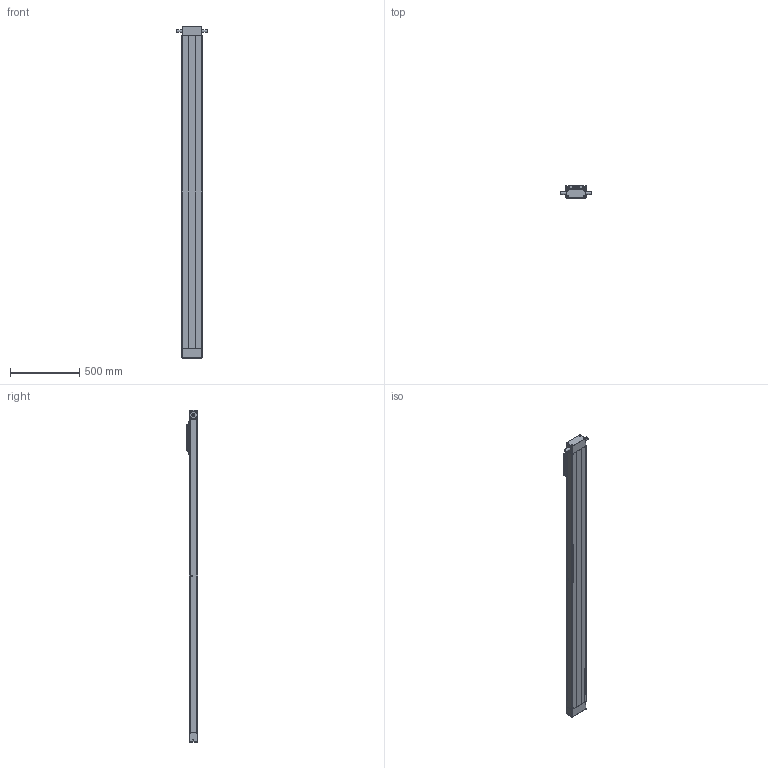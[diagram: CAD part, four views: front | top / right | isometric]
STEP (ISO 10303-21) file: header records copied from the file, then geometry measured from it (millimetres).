
FILE_DESCRIPTION(/* description */ ('STEP AP214'),/* implementation_level */ '2;1');
FILE_NAME(/* name */ 'CTJ 145 2000 L 2 1(0)',/* time_stamp */ '2026-08-19T12:23:34+02:00',/* author */ ('License CC BY-ND 4.0'),/* organization */ ('CADENAS'),/* preprocessor_version */ 'ST-DEVELOPER v20',/* originating_system */ 'PARTsolutions',/* authorisation */ ' ');
FILE_SCHEMA (('AUTOMOTIVE_DESIGN {1 0 10303 214 3 1 1}'));
Length unit declared in the file: millimetre
Products named in the file (6): CTJ 145 2000 L 2 1(0); CTJ 145 2_drive_block; CTJ 145 2000 L 1(0)_profil; CTJ 145_end_block; CTJ 145 L_carriage; CTJ 145 L_connection_plate
Assembly tree (5 placements, depth 2):
  CTJ 145 2000 L 2 1(0)
    CTJ 145 2_drive_block
    CTJ 145 2000 L 1(0)_profil
    CTJ 145_end_block
    CTJ 145 L_carriage
    CTJ 145 L_connection_plate
Bounding box: 225 x 85 x 2403 mm (x, y, z)
Volume: 20904249.7 mm3; surface area: 1462231.7 mm2
Topology: 5 solids, 5 shells, 636 faces, 1547 edges, 1021 vertices
Faces by surface type: plane 454, cylinder 141, cone 25, torus 16
Full cylindrical faces by diameter (mm): 0.3 x2, 2.5 x2, 3 x4, 3.242 x1, 4.917 x24, 5 x8, 6 x14, 7.5 x2, 8 x10, 10 x8, 11 x8, 12 x12, 14 x2, 14.2 x2, 20 x2, 55 x2
Entity records: 22181 total; most frequent: CARTESIAN_POINT 3034, DIRECTION 2990, ORIENTED_EDGE 2746, EDGE_CURVE 1373, LINE 1032, VECTOR 1032, VERTEX_POINT 995, AXIS2_PLACEMENT_3D 979
